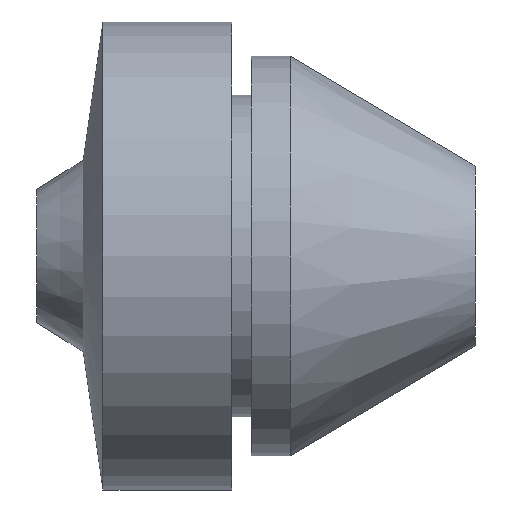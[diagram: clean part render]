
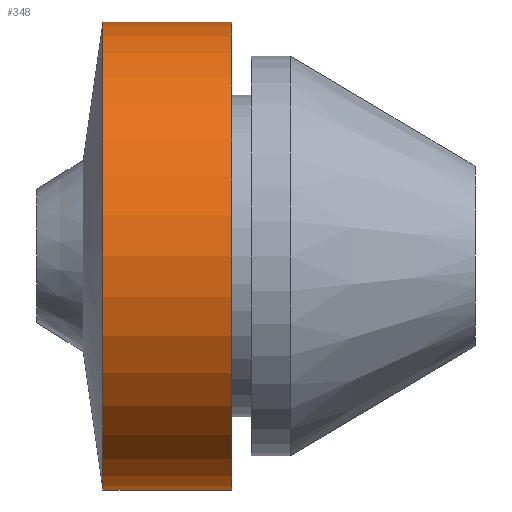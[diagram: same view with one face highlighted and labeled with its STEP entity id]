
A CAD part, left-side view. The second image highlights one B-rep face of the part: STEP entity #348.
In plain terms, the highlighted cylindrical face has radius 12 mm (diameter 24 mm), a partial arc.
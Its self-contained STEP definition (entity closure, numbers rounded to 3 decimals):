
#40 = CARTESIAN_POINT ( 'NONE',  ( 0., 0., 12. ) ) ;
#41 = DIRECTION ( 'NONE',  ( 0., -1., 0. ) ) ;
#107 = DIRECTION ( 'NONE',  ( 0., 0., -1. ) ) ;
#109 = DIRECTION ( 'NONE',  ( 0., -1., 0. ) ) ;
#111 = CARTESIAN_POINT ( 'NONE',  ( 0., 0., 0. ) ) ;
#113 = CARTESIAN_POINT ( 'NONE',  ( 0., 19.101, -12. ) ) ;
#121 = CARTESIAN_POINT ( 'NONE',  ( 0., 19.101, 12. ) ) ;
#122 = CARTESIAN_POINT ( 'NONE',  ( 0., 12.5, -12. ) ) ;
#124 = CARTESIAN_POINT ( 'NONE',  ( 0., 12.5, 12. ) ) ;
#154 = AXIS2_PLACEMENT_3D ( 'NONE', #111, #109, #107 ) ;
#182 = AXIS2_PLACEMENT_3D ( 'NONE', #244, #407, #408 ) ;
#184 = AXIS2_PLACEMENT_3D ( 'NONE', #406, #405, #404 ) ;
#196 = EDGE_CURVE ( 'NONE', #377, #379, #363, .T. ) ;
#197 = EDGE_CURVE ( 'NONE', #377, #374, #354, .T. ) ;
#202 = EDGE_CURVE ( 'NONE', #461, #379, #376, .T. ) ;
#217 = EDGE_CURVE ( 'NONE', #374, #461, #318, .T. ) ;
#244 = CARTESIAN_POINT ( 'NONE',  ( 0., 12.5, 0. ) ) ;
#251 = CARTESIAN_POINT ( 'NONE',  ( 0., 0., -12. ) ) ;
#252 = DIRECTION ( 'NONE',  ( 0., -1., 0. ) ) ;
#261 = ORIENTED_EDGE ( 'NONE', *, *, #202, .F. ) ;
#267 = ORIENTED_EDGE ( 'NONE', *, *, #196, .T. ) ;
#268 = ORIENTED_EDGE ( 'NONE', *, *, #197, .F. ) ;
#269 = ORIENTED_EDGE ( 'NONE', *, *, #217, .F. ) ;
#316 = VECTOR ( 'NONE', #41, 1000. ) ;
#318 = LINE ( 'NONE', #40, #316 ) ;
#348 = ADVANCED_FACE ( 'NONE', ( #413 ), #418, .T. ) ;
#354 = CIRCLE ( 'NONE', #184, 12. ) ;
#363 = LINE ( 'NONE', #251, #365 ) ;
#365 = VECTOR ( 'NONE', #252, 1000. ) ;
#374 = VERTEX_POINT ( 'NONE', #121 ) ;
#376 = CIRCLE ( 'NONE', #182, 12. ) ;
#377 = VERTEX_POINT ( 'NONE', #113 ) ;
#379 = VERTEX_POINT ( 'NONE', #122 ) ;
#404 = DIRECTION ( 'NONE',  ( 0., 0., 1. ) ) ;
#405 = DIRECTION ( 'NONE',  ( 0., 1., 0. ) ) ;
#406 = CARTESIAN_POINT ( 'NONE',  ( 0., 19.101, 0. ) ) ;
#407 = DIRECTION ( 'NONE',  ( 0., -1., 0. ) ) ;
#408 = DIRECTION ( 'NONE',  ( 0., 0., -1. ) ) ;
#413 = FACE_OUTER_BOUND ( 'NONE', #480, .T. ) ;
#418 = CYLINDRICAL_SURFACE ( 'NONE', #154, 12. ) ;
#461 = VERTEX_POINT ( 'NONE', #124 ) ;
#480 = EDGE_LOOP ( 'NONE', ( #269, #268, #267, #261 ) ) ;
